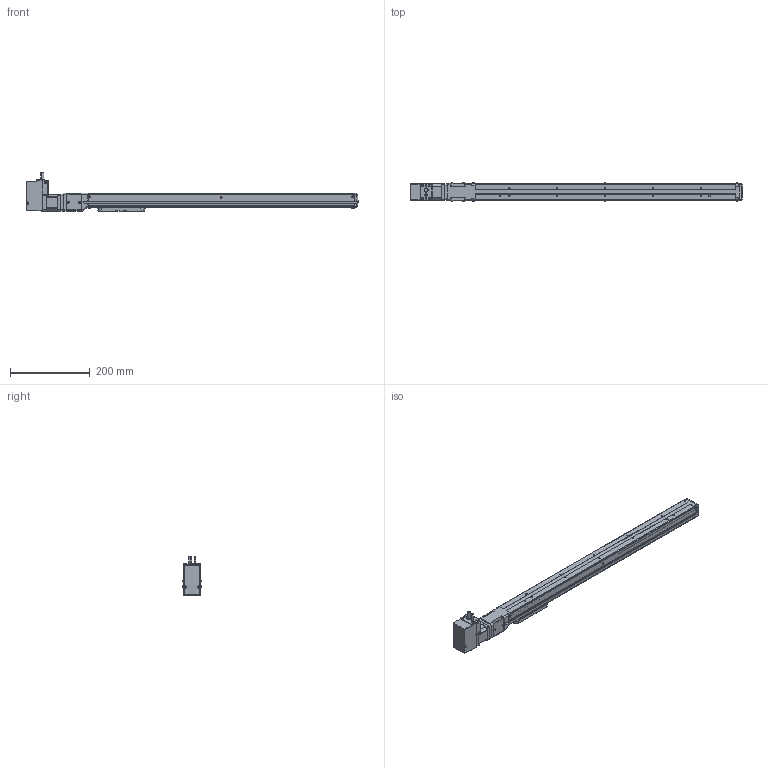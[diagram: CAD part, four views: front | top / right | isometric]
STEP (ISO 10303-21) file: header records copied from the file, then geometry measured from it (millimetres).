
FILE_DESCRIPTION(('FreeCAD Model'),'2;1');
FILE_NAME('Open CASCADE Shape Model','2023-08-01T17:53:42',('Author'),( ''),'Open CASCADE STEP processor 7.5','FreeCAD','Unknown');
FILE_SCHEMA(('AUTOMOTIVE_DESIGN { 1 0 10303 214 1 1 1 1 }'));
Length unit declared in the file: millimetre
Products named in the file (20): RCB0411; Shapes; Shapes001; Shapes002; Shapes003; Shapes004; Shapes005; Shapes006; Shapes007; Shapes008; Shapes009; Shapes010; Shapes011; Shapes012; Shapes013; KSF4-10-0500-0-AR(0); KSF4---(Cover); KSF4-AR---(Motor bracket); KSF4-10-0500---(slider); KSF4-10-0500-0-AR-(05000ARNo0)---(body)
Assembly tree (19 placements, depth 3):
  RCB0411
    Shapes
    Shapes001
    Shapes002
    Shapes003
    Shapes004
    Shapes005
    Shapes006
    Shapes007
    Shapes008
    Shapes009
    Shapes010
    Shapes011
    Shapes012
    Shapes013
    KSF4-10-0500-0-AR(0)
      KSF4---(Cover)
      KSF4-AR---(Motor bracket)
      KSF4-10-0500---(slider)
      KSF4-10-0500-0-AR-(05000ARNo0)---(body)
Bounding box: 831.9 x 45.4 x 97.64 mm (x, y, z)
Volume: 1339219.1 mm3; surface area: 255608.2 mm2
Topology: 18 solids, 18 shells, 1253 faces, 3248 edges, 2118 vertices
Faces by surface type: plane 683, cylinder 424, cone 66, torus 51, bspline 19, revolution 6, sphere 4
Full cylindrical faces by diameter (mm): 2.113 x8, 2.459 x3, 3 x6, 3.242 x4, 3.4 x14, 4 x3, 4.5 x2, 5.5 x8, 6 x1, 6.5 x16, 8 x1, 12 x1, 22 x1, 28 x1, 30 x2
Entity records: 92166 total; most frequent: CARTESIAN_POINT 26636, DIRECTION 12315, LINE 7295, VECTOR 7295, ORIENTED_EDGE 6460, PCURVE 6460, DEFINITIONAL_REPRESENTATION 6460, EDGE_CURVE 3230
